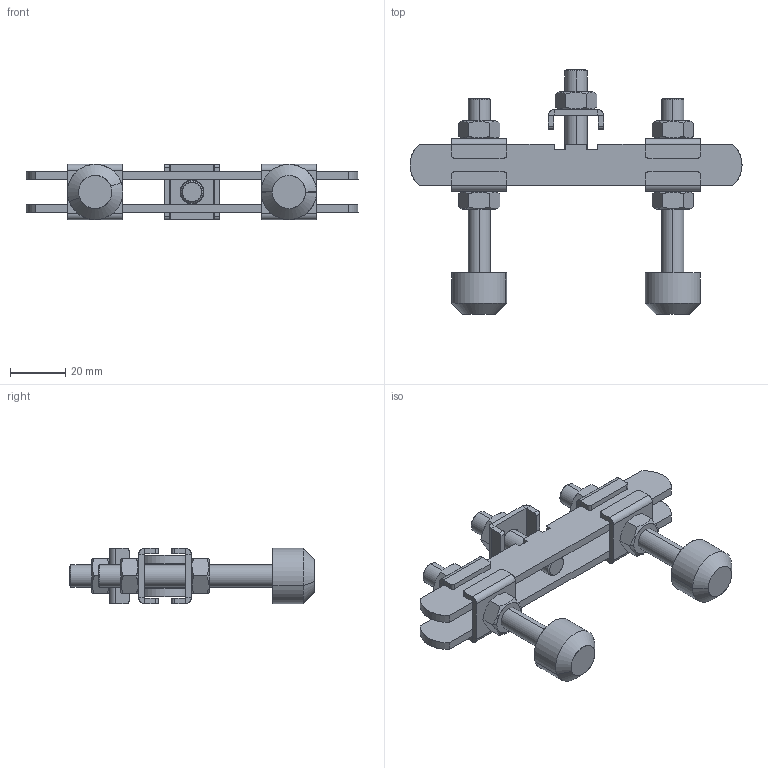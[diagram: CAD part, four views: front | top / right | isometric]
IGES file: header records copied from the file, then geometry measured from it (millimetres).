
Start section: SolidWorks IGES file using analytic representation for surfaces
Global section: file name: C:\Projetos\Ponteiras\PBD\PBD-M8.IGS; native system: SolidWorks 2015; preprocessor: SolidWorks 2015; author: Ricardo; date: 160725.151408; units: millimetre
Bounding box: 120 x 88.5 x 20 mm (x, y, z)
Surface area: 26126.6 mm2 (no closed solid volume)
Topology: 0 solids, 0 shells, 304 faces, 3888 edges, 3884 vertices
Faces by surface type: bspline 164, revolution 140
